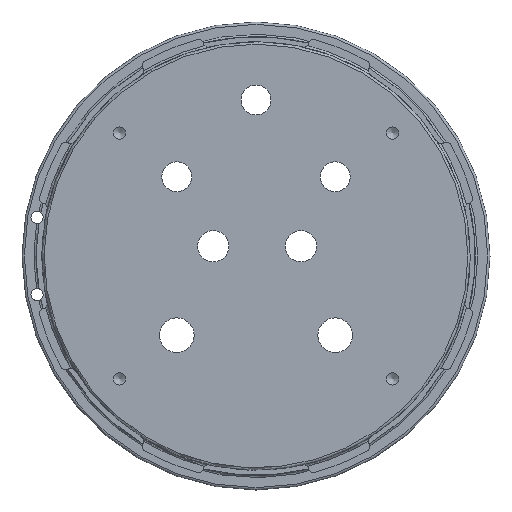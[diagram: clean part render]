
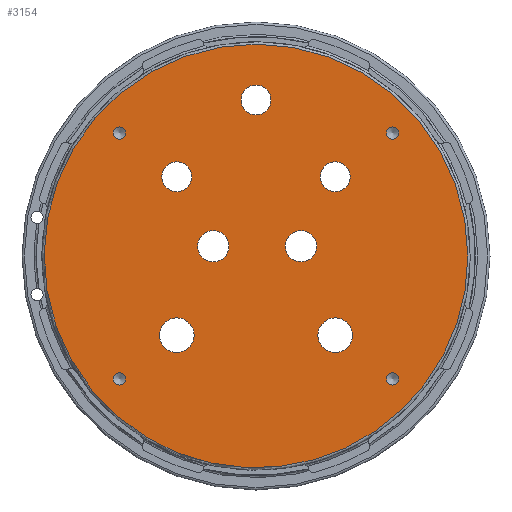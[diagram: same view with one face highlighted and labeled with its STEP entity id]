
A CAD part, front view. The second image highlights one B-rep face of the part: STEP entity #3154.
In plain terms, the highlighted planar face has unit normal (0, -1, 0).
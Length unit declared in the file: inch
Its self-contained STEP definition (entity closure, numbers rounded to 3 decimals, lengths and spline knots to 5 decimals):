
#620=FACE_BOUND('',#1040,.T.);
#621=FACE_BOUND('',#1041,.T.);
#622=FACE_BOUND('',#1042,.T.);
#623=FACE_BOUND('',#1043,.T.);
#624=FACE_BOUND('',#1044,.T.);
#625=FACE_BOUND('',#1045,.T.);
#626=FACE_BOUND('',#1046,.T.);
#627=FACE_BOUND('',#1047,.T.);
#628=FACE_BOUND('',#1048,.T.);
#629=FACE_BOUND('',#1049,.T.);
#630=FACE_BOUND('',#1050,.T.);
#631=FACE_BOUND('',#1051,.T.);
#1040=EDGE_LOOP('',(#2892));
#1041=EDGE_LOOP('',(#2893));
#1042=EDGE_LOOP('',(#2894));
#1043=EDGE_LOOP('',(#2895));
#1044=EDGE_LOOP('',(#2896));
#1045=EDGE_LOOP('',(#2897));
#1046=EDGE_LOOP('',(#2898));
#1047=EDGE_LOOP('',(#2899));
#1048=EDGE_LOOP('',(#2900));
#1049=EDGE_LOOP('',(#2901));
#1050=EDGE_LOOP('',(#2902));
#1051=EDGE_LOOP('',(#2903));
#1061=CIRCLE('',#3170,0.20079);
#1065=CIRCLE('',#3177,0.20079);
#1069=CIRCLE('',#3184,0.1915);
#1073=CIRCLE('',#3191,0.1915);
#1077=CIRCLE('',#3198,0.223);
#1081=CIRCLE('',#3205,0.223);
#1085=CIRCLE('',#3212,0.1915);
#1144=CIRCLE('',#3289,0.078);
#1146=CIRCLE('',#3293,0.078);
#1148=CIRCLE('',#3297,0.078);
#1150=CIRCLE('',#3301,0.078);
#1350=CIRCLE('',#3633,2.716);
#1355=VERTEX_POINT('',#4722);
#1359=VERTEX_POINT('',#4733);
#1363=VERTEX_POINT('',#4744);
#1367=VERTEX_POINT('',#4755);
#1371=VERTEX_POINT('',#4766);
#1375=VERTEX_POINT('',#4777);
#1379=VERTEX_POINT('',#4788);
#1474=VERTEX_POINT('',#5058);
#1476=VERTEX_POINT('',#5064);
#1478=VERTEX_POINT('',#5070);
#1480=VERTEX_POINT('',#5076);
#1643=VERTEX_POINT('',#5825);
#1647=EDGE_CURVE('',#1355,#1355,#1061,.T.);
#1651=EDGE_CURVE('',#1359,#1359,#1065,.T.);
#1655=EDGE_CURVE('',#1363,#1363,#1069,.T.);
#1659=EDGE_CURVE('',#1367,#1367,#1073,.T.);
#1663=EDGE_CURVE('',#1371,#1371,#1077,.T.);
#1667=EDGE_CURVE('',#1375,#1375,#1081,.T.);
#1671=EDGE_CURVE('',#1379,#1379,#1085,.T.);
#1774=EDGE_CURVE('',#1474,#1474,#1144,.T.);
#1776=EDGE_CURVE('',#1476,#1476,#1146,.T.);
#1778=EDGE_CURVE('',#1478,#1478,#1148,.T.);
#1780=EDGE_CURVE('',#1480,#1480,#1150,.T.);
#2069=EDGE_CURVE('',#1643,#1643,#1350,.T.);
#2892=ORIENTED_EDGE('',*,*,#1647,.T.);
#2893=ORIENTED_EDGE('',*,*,#1651,.T.);
#2894=ORIENTED_EDGE('',*,*,#1655,.T.);
#2895=ORIENTED_EDGE('',*,*,#1659,.T.);
#2896=ORIENTED_EDGE('',*,*,#1663,.T.);
#2897=ORIENTED_EDGE('',*,*,#1667,.T.);
#2898=ORIENTED_EDGE('',*,*,#1671,.T.);
#2899=ORIENTED_EDGE('',*,*,#1774,.T.);
#2900=ORIENTED_EDGE('',*,*,#1776,.T.);
#2901=ORIENTED_EDGE('',*,*,#1778,.T.);
#2902=ORIENTED_EDGE('',*,*,#1780,.T.);
#2903=ORIENTED_EDGE('',*,*,#2069,.F.);
#2975=PLANE('',#3634);
#3154=ADVANCED_FACE('',(#620,#621,#622,#623,#624,#625,#626,#627,#628,#629,
#630,#631),#2975,.T.);
#3170=AXIS2_PLACEMENT_3D('',#4723,#3656,#3657);
#3177=AXIS2_PLACEMENT_3D('',#4734,#3670,#3671);
#3184=AXIS2_PLACEMENT_3D('',#4745,#3684,#3685);
#3191=AXIS2_PLACEMENT_3D('',#4756,#3698,#3699);
#3198=AXIS2_PLACEMENT_3D('',#4767,#3712,#3713);
#3205=AXIS2_PLACEMENT_3D('',#4778,#3726,#3727);
#3212=AXIS2_PLACEMENT_3D('',#4789,#3740,#3741);
#3289=AXIS2_PLACEMENT_3D('',#5059,#3930,#3931);
#3293=AXIS2_PLACEMENT_3D('',#5065,#3938,#3939);
#3297=AXIS2_PLACEMENT_3D('',#5071,#3946,#3947);
#3301=AXIS2_PLACEMENT_3D('',#5077,#3954,#3955);
#3633=AXIS2_PLACEMENT_3D('',#5826,#4692,#4693);
#3634=AXIS2_PLACEMENT_3D('',#5827,#4694,#4695);
#3656=DIRECTION('center_axis',(0.,1.,0.));
#3657=DIRECTION('ref_axis',(1.,0.,0.));
#3670=DIRECTION('center_axis',(0.,1.,0.));
#3671=DIRECTION('ref_axis',(1.,0.,0.));
#3684=DIRECTION('center_axis',(0.,1.,0.));
#3685=DIRECTION('ref_axis',(1.,0.,0.));
#3698=DIRECTION('center_axis',(0.,1.,0.));
#3699=DIRECTION('ref_axis',(1.,0.,0.));
#3712=DIRECTION('center_axis',(0.,1.,0.));
#3713=DIRECTION('ref_axis',(1.,0.,0.));
#3726=DIRECTION('center_axis',(0.,1.,0.));
#3727=DIRECTION('ref_axis',(1.,0.,0.));
#3740=DIRECTION('center_axis',(0.,1.,0.));
#3741=DIRECTION('ref_axis',(-1.,0.,0.));
#3930=DIRECTION('center_axis',(0.,1.,0.));
#3931=DIRECTION('ref_axis',(1.,0.,0.));
#3938=DIRECTION('center_axis',(0.,1.,0.));
#3939=DIRECTION('ref_axis',(1.,0.,0.));
#3946=DIRECTION('center_axis',(0.,1.,0.));
#3947=DIRECTION('ref_axis',(1.,0.,0.));
#3954=DIRECTION('center_axis',(0.,1.,0.));
#3955=DIRECTION('ref_axis',(1.,0.,0.));
#4692=DIRECTION('center_axis',(0.,1.,0.));
#4693=DIRECTION('ref_axis',(-1.,0.,0.));
#4694=DIRECTION('center_axis',(0.,-1.,0.));
#4695=DIRECTION('ref_axis',(0.,0.,-1.));
#4722=CARTESIAN_POINT('',(-0.74922,-0.6575,0.125));
#4723=CARTESIAN_POINT('Origin',(-0.54844,-0.6575,0.125));
#4733=CARTESIAN_POINT('',(0.37578,-0.6575,0.125));
#4734=CARTESIAN_POINT('Origin',(0.57656,-0.6575,0.125));
#4744=CARTESIAN_POINT('',(-1.20761,-0.6575,1.01611));
#4745=CARTESIAN_POINT('Origin',(-1.01611,-0.6575,1.01611));
#4755=CARTESIAN_POINT('',(0.82461,-0.6575,1.01611));
#4756=CARTESIAN_POINT('Origin',(1.01611,-0.6575,1.01611));
#4766=CARTESIAN_POINT('',(-1.23911,-0.6575,-1.01611));
#4767=CARTESIAN_POINT('Origin',(-1.01611,-0.6575,-1.01611));
#4777=CARTESIAN_POINT('',(0.79311,-0.6575,-1.01611));
#4778=CARTESIAN_POINT('Origin',(1.01611,-0.6575,-1.01611));
#4788=CARTESIAN_POINT('',(0.1915,-0.6575,2.));
#4789=CARTESIAN_POINT('Origin',(0.,-0.6575,2.));
#5058=CARTESIAN_POINT('',(1.82903,-0.6575,-1.57664));
#5059=CARTESIAN_POINT('Origin',(1.75103,-0.6575,-1.57664));
#5064=CARTESIAN_POINT('',(-1.67303,-0.6575,1.57664));
#5065=CARTESIAN_POINT('Origin',(-1.75103,-0.6575,1.57664));
#5070=CARTESIAN_POINT('',(1.82903,-0.6575,1.57664));
#5071=CARTESIAN_POINT('Origin',(1.75103,-0.6575,1.57664));
#5076=CARTESIAN_POINT('',(-1.67303,-0.6575,-1.57664));
#5077=CARTESIAN_POINT('Origin',(-1.75103,-0.6575,-1.57664));
#5825=CARTESIAN_POINT('',(2.716,-0.6575,0.));
#5826=CARTESIAN_POINT('Origin',(0.,-0.6575,0.));
#5827=CARTESIAN_POINT('Origin',(2.5,-0.6575,0.));
